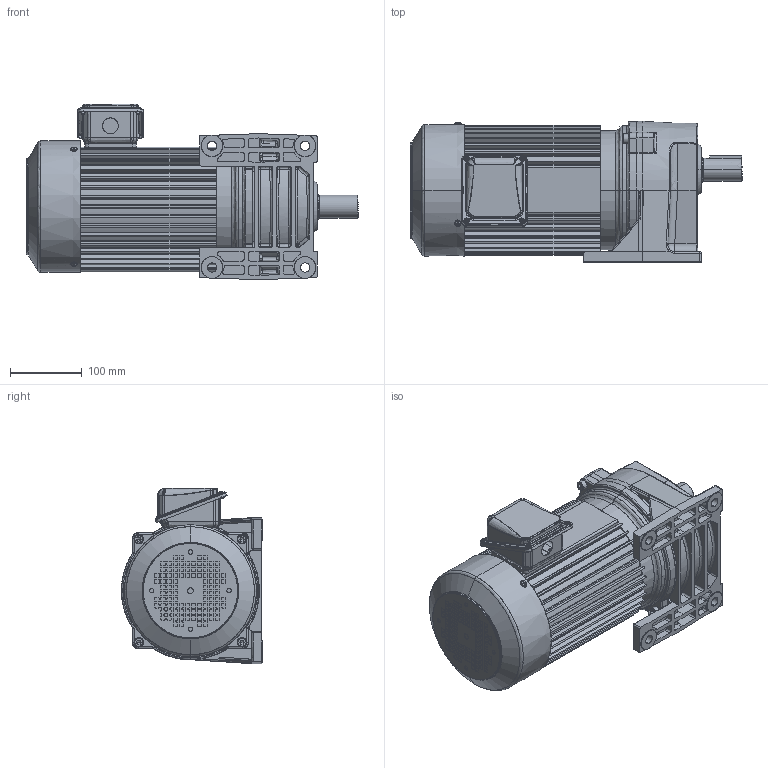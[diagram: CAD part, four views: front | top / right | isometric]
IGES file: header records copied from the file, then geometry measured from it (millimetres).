
Start section: SolidWorks IGES file using analytic representation for surfaces
Global section: file name: \\100.100.100.8\1_共有作業フォルダ\1-5_３Ｄデータ\solidworks\personal-folder\H.Nagayama\SGP1外形075~370\P1(3D)_075~370\igs\TML2-15E-(5~25).IGS; native system: SolidWorks 2018; preprocessor: SolidWorks 2018; author: sigma-giken; date: 200806.162206; units: millimetre
Bounding box: 464 x 197.5 x 245 mm (x, y, z)
Surface area: 687339.6 mm2 (no closed solid volume)
Topology: 0 solids, 0 shells, 2500 faces, 27174 edges, 27136 vertices
Faces by surface type: bspline 1306, revolution 1194
